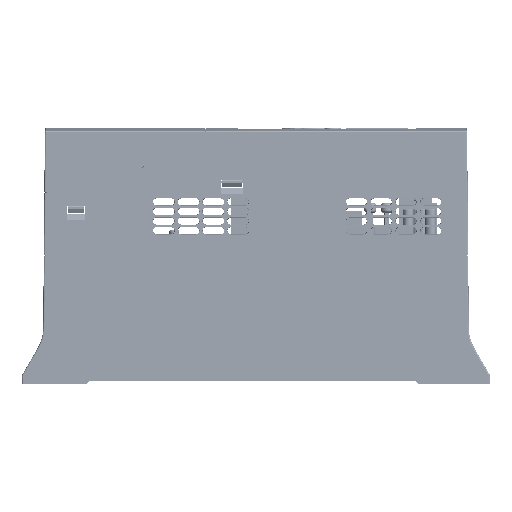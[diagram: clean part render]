
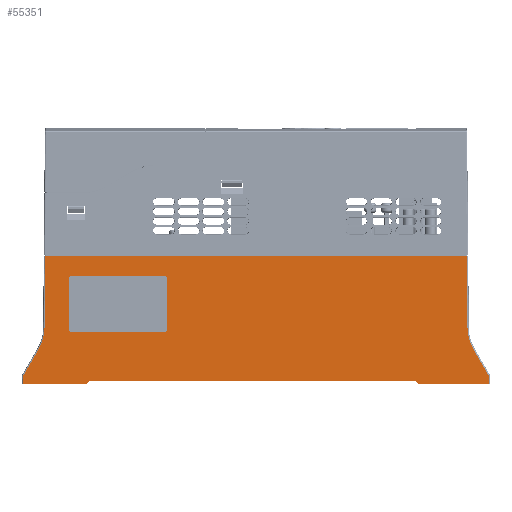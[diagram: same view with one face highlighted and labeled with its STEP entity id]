
A CAD part, front view. The second image highlights one B-rep face of the part: STEP entity #55351.
In plain terms, the highlighted planar face has unit normal (0, -1, 0.009).
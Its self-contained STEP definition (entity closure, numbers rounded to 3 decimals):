
#1172=CARTESIAN_POINT('',(-324.,-96.,0.));
#1178=DIRECTION('',(1.,0.,0.));
#1179=VECTOR('',#1178,46.5);
#1180=CARTESIAN_POINT('',(-324.,-96.,0.));
#1181=LINE('',#1180,#1179);
#1408=DIRECTION('',(1.,0.,0.));
#1409=VECTOR('',#1408,51.5);
#1410=CARTESIAN_POINT('',(-37.5,-96.,0.));
#1411=LINE('',#1410,#1409);
#1416=CARTESIAN_POINT('',(14.,-96.,0.));
#14974=DIRECTION('',(0.,-0.009,-1.));
#14975=VECTOR('',#14974,38.501);
#14976=CARTESIAN_POINT('',(-220.,-95.328,77.));
#14977=LINE('',#14976,#14975);
#14978=CARTESIAN_POINT('',(-221.,-95.319,78.));
#14979=CARTESIAN_POINT('',(-220.667,-95.319,78.));
#14980=CARTESIAN_POINT('',(-220.252,-95.322,
77.748));
#14981=CARTESIAN_POINT('',(-220.,-95.325,77.333));
#14982=CARTESIAN_POINT('',(-220.,-95.328,77.));
#14984=DIRECTION('',(1.,0.,0.));
#14985=VECTOR('',#14984,68.5);
#14986=CARTESIAN_POINT('',(-289.5,-95.319,78.));
#14987=LINE('',#14986,#14985);
#14988=CARTESIAN_POINT('',(-290.5,-95.328,77.));
#14989=CARTESIAN_POINT('',(-290.5,-95.325,77.333));
#14990=CARTESIAN_POINT('',(-290.248,-95.322,
77.748));
#14991=CARTESIAN_POINT('',(-289.833,-95.319,78.));
#14992=CARTESIAN_POINT('',(-289.5,-95.319,78.));
#14994=DIRECTION('',(0.,0.009,1.));
#14995=VECTOR('',#14994,38.501);
#14996=CARTESIAN_POINT('',(-290.5,-95.664,38.5));
#14997=LINE('',#14996,#14995);
#14998=CARTESIAN_POINT('',(-289.5,-95.673,37.5));
#14999=CARTESIAN_POINT('',(-289.833,-95.673,37.5));
#15000=CARTESIAN_POINT('',(-290.248,-95.671,
37.752));
#15001=CARTESIAN_POINT('',(-290.5,-95.667,38.167));
#15002=CARTESIAN_POINT('',(-290.5,-95.664,38.5));
#15004=DIRECTION('',(-1.,0.,0.));
#15005=VECTOR('',#15004,68.5);
#15006=CARTESIAN_POINT('',(-221.,-95.673,37.5));
#15007=LINE('',#15006,#15005);
#15008=CARTESIAN_POINT('',(-220.,-95.664,38.5));
#15009=CARTESIAN_POINT('',(-220.,-95.667,38.167));
#15010=CARTESIAN_POINT('',(-220.252,-95.671,
37.752));
#15011=CARTESIAN_POINT('',(-220.667,-95.673,37.5));
#15012=CARTESIAN_POINT('',(-221.,-95.673,37.5));
#15014=DIRECTION('',(0.,0.009,1.));
#15015=VECTOR('',#15014,5.741);
#15016=CARTESIAN_POINT('',(14.,-96.,0.));
#15017=LINE('',#15016,#15015);
#15018=DIRECTION('',(0.707,-0.006,-0.707));
#15019=VECTOR('',#15018,2.828);
#15020=CARTESIAN_POINT('',(-39.5,-95.983,2.));
#15021=LINE('',#15020,#15019);
#15022=DIRECTION('',(1.,0.,0.));
#15023=VECTOR('',#15022,236.);
#15024=CARTESIAN_POINT('',(-275.5,-95.983,2.));
#15025=LINE('',#15024,#15023);
#15026=DIRECTION('',(0.707,0.006,0.707));
#15027=VECTOR('',#15026,2.828);
#15028=CARTESIAN_POINT('',(-277.5,-96.,0.));
#15029=LINE('',#15028,#15027);
#15030=DIRECTION('',(0.,-0.009,-1.));
#15031=VECTOR('',#15030,5.741);
#15032=CARTESIAN_POINT('',(-324.,-95.95,5.741));
#15033=LINE('',#15032,#15031);
#15034=DIRECTION('',(-0.5,-0.008,-0.866));
#15035=VECTOR('',#15034,22.401);
#15036=CARTESIAN_POINT('',(-312.8,-95.781,
25.14));
#15037=LINE('',#15036,#15035);
#15038=CARTESIAN_POINT('',(-308.648,-95.648,
40.37));
#15039=CARTESIAN_POINT('',(-308.663,-95.663,
38.587));
#15040=CARTESIAN_POINT('',(-308.993,-95.694,
35.081));
#15041=CARTESIAN_POINT('',(-310.414,-95.739,
29.87));
#15042=CARTESIAN_POINT('',(-311.909,-95.767,
26.683));
#15043=CARTESIAN_POINT('',(-312.8,-95.781,
25.14));
#15045=DIRECTION('',(-0.009,-0.009,-1.));
#15046=VECTOR('',#15045,52.634);
#15047=CARTESIAN_POINT('',(-308.188,-95.188,93.));
#15048=LINE('',#15047,#15046);
#15049=DIRECTION('',(1.,0.,0.));
#15050=VECTOR('',#15049,306.377);
#15051=CARTESIAN_POINT('',(-308.188,-95.188,93.));
#15052=LINE('',#15051,#15050);
#15053=DIRECTION('',(0.009,-0.009,-1.));
#15054=VECTOR('',#15053,52.634);
#15055=CARTESIAN_POINT('',(-1.812,-95.188,93.));
#15056=LINE('',#15055,#15054);
#15057=CARTESIAN_POINT('',(-1.352,-95.648,
40.37));
#15058=CARTESIAN_POINT('',(-1.337,-95.663,
38.587));
#15059=CARTESIAN_POINT('',(-1.007,-95.694,
35.081));
#15060=CARTESIAN_POINT('',(0.413,-95.739,
29.873));
#15061=CARTESIAN_POINT('',(1.909,-95.767,
26.684));
#15062=CARTESIAN_POINT('',(2.8,-95.781,
25.14));
#15064=DIRECTION('',(0.5,-0.008,-0.866));
#15065=VECTOR('',#15064,22.401);
#15066=CARTESIAN_POINT('',(2.8,-95.781,
25.14));
#15067=LINE('',#15066,#15065);
#15314=CARTESIAN_POINT('',(-1.812,-95.188,93.));
#15324=CARTESIAN_POINT('',(-308.188,-95.188,93.));
#29229=CARTESIAN_POINT('',(-220.,-95.328,77.));
#29230=CARTESIAN_POINT('',(-220.,-95.664,38.5));
#29231=VERTEX_POINT('',#29229);
#29232=VERTEX_POINT('',#29230);
#29233=CARTESIAN_POINT('',(-221.,-95.673,37.5));
#29234=CARTESIAN_POINT('',(-289.5,-95.673,37.5));
#29235=VERTEX_POINT('',#29233);
#29236=VERTEX_POINT('',#29234);
#29237=CARTESIAN_POINT('',(-290.5,-95.664,38.5));
#29238=CARTESIAN_POINT('',(-290.5,-95.328,77.));
#29239=VERTEX_POINT('',#29237);
#29240=VERTEX_POINT('',#29238);
#29241=CARTESIAN_POINT('',(-289.5,-95.319,78.));
#29242=CARTESIAN_POINT('',(-221.,-95.319,78.));
#29243=VERTEX_POINT('',#29241);
#29244=VERTEX_POINT('',#29242);
#31730=CARTESIAN_POINT('',(-277.5,-96.,0.));
#31732=VERTEX_POINT('',#31730);
#31738=CARTESIAN_POINT('',(-37.5,-96.,0.));
#31740=VERTEX_POINT('',#31738);
#31748=CARTESIAN_POINT('',(-275.5,-95.983,2.));
#31749=VERTEX_POINT('',#31748);
#31750=CARTESIAN_POINT('',(-39.5,-95.983,2.));
#31751=VERTEX_POINT('',#31750);
#36204=VERTEX_POINT('',#1416);
#36205=CARTESIAN_POINT('',(14.,-95.95,5.741));
#36206=VERTEX_POINT('',#36205);
#36209=VERTEX_POINT('',#15314);
#36212=CARTESIAN_POINT('',(-1.352,-95.648,
40.37));
#36213=VERTEX_POINT('',#36212);
#36215=VERTEX_POINT('',#15062);
#36219=VERTEX_POINT('',#15324);
#36220=CARTESIAN_POINT('',(-308.648,-95.648,
40.37));
#36221=VERTEX_POINT('',#36220);
#36224=VERTEX_POINT('',#15043);
#36228=CARTESIAN_POINT('',(-324.,-95.95,5.741));
#36229=VERTEX_POINT('',#36228);
#36230=VERTEX_POINT('',#1172);
#55302=CARTESIAN_POINT('',(-329.818,-96.,0.));
#55303=DIRECTION('',(0.,-1.,0.009));
#55304=DIRECTION('',(-1.,0.,0.));
#55305=AXIS2_PLACEMENT_3D('',#55302,#55303,#55304);
#55306=PLANE('',#55305);
#55308=ORIENTED_EDGE('',*,*,#55307,.F.);
#55309=ORIENTED_EDGE('',*,*,#37237,.F.);
#55310=ORIENTED_EDGE('',*,*,#54111,.F.);
#55311=ORIENTED_EDGE('',*,*,#52991,.F.);
#55313=ORIENTED_EDGE('',*,*,#55312,.F.);
#55314=ORIENTED_EDGE('',*,*,#36805,.F.);
#55316=ORIENTED_EDGE('',*,*,#55315,.F.);
#55318=ORIENTED_EDGE('',*,*,#55317,.F.);
#55320=ORIENTED_EDGE('',*,*,#55319,.F.);
#55322=ORIENTED_EDGE('',*,*,#55321,.F.);
#55324=ORIENTED_EDGE('',*,*,#55323,.T.);
#55326=ORIENTED_EDGE('',*,*,#55325,.T.);
#55328=ORIENTED_EDGE('',*,*,#55327,.T.);
#55330=ORIENTED_EDGE('',*,*,#55329,.T.);
#55331=EDGE_LOOP('',(#55308,#55309,#55310,#55311,#55313,#55314,#55316,#55318,
#55320,#55322,#55324,#55326,#55328,#55330));
#55332=FACE_OUTER_BOUND('',#55331,.F.);
#55334=ORIENTED_EDGE('',*,*,#55333,.F.);
#55336=ORIENTED_EDGE('',*,*,#55335,.F.);
#55338=ORIENTED_EDGE('',*,*,#55337,.F.);
#55340=ORIENTED_EDGE('',*,*,#55339,.F.);
#55342=ORIENTED_EDGE('',*,*,#55341,.F.);
#55344=ORIENTED_EDGE('',*,*,#55343,.F.);
#55346=ORIENTED_EDGE('',*,*,#55345,.F.);
#55348=ORIENTED_EDGE('',*,*,#55347,.F.);
#55349=EDGE_LOOP('',(#55334,#55336,#55338,#55340,#55342,#55344,#55346,#55348));
#55350=FACE_BOUND('',#55349,.F.);
#55351=ADVANCED_FACE('',(#55332,#55350),#55306,.T.);
#14983=B_SPLINE_CURVE_WITH_KNOTS('',3,(#14978,#14979,#14980,#14981,#14982),
.UNSPECIFIED.,.F.,.F.,(4,1,4),(0.,0.5,1.),.UNSPECIFIED.);
#14993=B_SPLINE_CURVE_WITH_KNOTS('',3,(#14988,#14989,#14990,#14991,#14992),
.UNSPECIFIED.,.F.,.F.,(4,1,4),(0.,0.5,1.),.UNSPECIFIED.);
#15003=B_SPLINE_CURVE_WITH_KNOTS('',3,(#14998,#14999,#15000,#15001,#15002),
.UNSPECIFIED.,.F.,.F.,(4,1,4),(0.,0.5,1.),.UNSPECIFIED.);
#15013=B_SPLINE_CURVE_WITH_KNOTS('',3,(#15008,#15009,#15010,#15011,#15012),
.UNSPECIFIED.,.F.,.F.,(4,1,4),(0.,0.5,1.),.UNSPECIFIED.);
#15044=B_SPLINE_CURVE_WITH_KNOTS('',3,(#15038,#15039,#15040,#15041,#15042,
#15043),.UNSPECIFIED.,.F.,.F.,(4,1,1,4),(0.,0.333,
0.667,1.),.UNSPECIFIED.);
#15063=B_SPLINE_CURVE_WITH_KNOTS('',3,(#15057,#15058,#15059,#15060,#15061,
#15062),.UNSPECIFIED.,.F.,.F.,(4,1,1,4),(0.,0.333,
0.667,1.),.UNSPECIFIED.);
#36805=EDGE_CURVE('',#36230,#31732,#1181,.T.);
#37237=EDGE_CURVE('',#31740,#36204,#1411,.T.);
#52991=EDGE_CURVE('',#31749,#31751,#15025,.T.);
#54111=EDGE_CURVE('',#31751,#31740,#15021,.T.);
#55307=EDGE_CURVE('',#36204,#36206,#15017,.T.);
#55312=EDGE_CURVE('',#31732,#31749,#15029,.T.);
#55315=EDGE_CURVE('',#36229,#36230,#15033,.T.);
#55317=EDGE_CURVE('',#36224,#36229,#15037,.T.);
#55319=EDGE_CURVE('',#36221,#36224,#15044,.T.);
#55321=EDGE_CURVE('',#36219,#36221,#15048,.T.);
#55323=EDGE_CURVE('',#36219,#36209,#15052,.T.);
#55325=EDGE_CURVE('',#36209,#36213,#15056,.T.);
#55327=EDGE_CURVE('',#36213,#36215,#15063,.T.);
#55329=EDGE_CURVE('',#36215,#36206,#15067,.T.);
#55333=EDGE_CURVE('',#29231,#29232,#14977,.T.);
#55335=EDGE_CURVE('',#29244,#29231,#14983,.T.);
#55337=EDGE_CURVE('',#29243,#29244,#14987,.T.);
#55339=EDGE_CURVE('',#29240,#29243,#14993,.T.);
#55341=EDGE_CURVE('',#29239,#29240,#14997,.T.);
#55343=EDGE_CURVE('',#29236,#29239,#15003,.T.);
#55345=EDGE_CURVE('',#29235,#29236,#15007,.T.);
#55347=EDGE_CURVE('',#29232,#29235,#15013,.T.);
